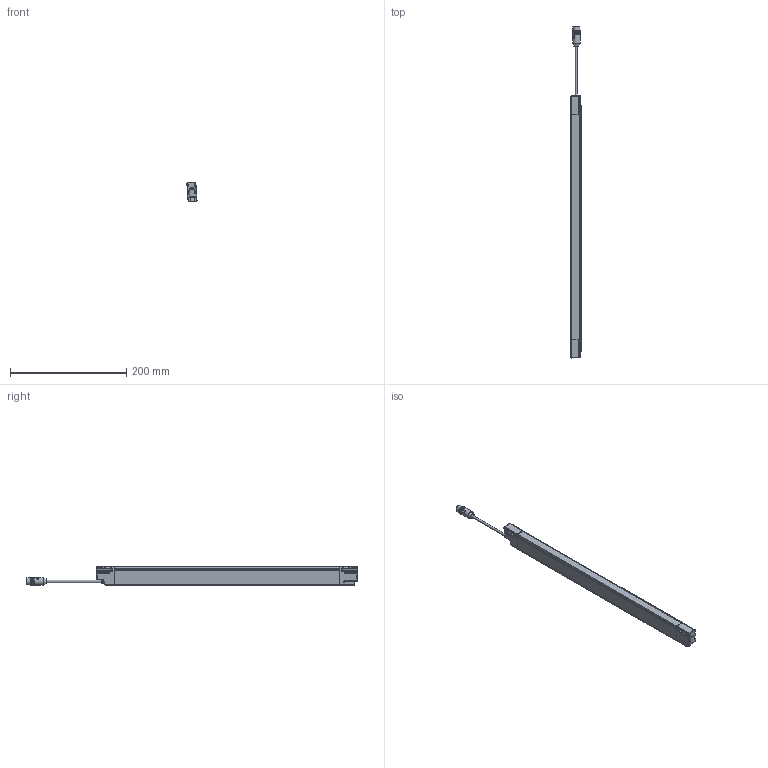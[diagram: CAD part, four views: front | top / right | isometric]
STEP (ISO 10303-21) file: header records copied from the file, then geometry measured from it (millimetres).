
FILE_DESCRIPTION(/* description */ (''),/* implementation_level */ '2;1');
FILE_NAME(/* name */ 'DSD-0630.stp',/* time_stamp */ '2015-02-23T17:08:57+01:00',/* author */ (''),/* organization */ (''),/* preprocessor_version */ 'ST-DEVELOPER v11',/* originating_system */ 'SIEMENS PLM Software NX 7.5',/* authorisation */ '');
FILE_SCHEMA (('AUTOMOTIVE_DESIGN { 1 0 10303 214 1 1 1 1 }'));
Length unit declared in the file: millimetre
Products named in the file (1): AP008109_00
Bounding box: 17.36 x 570.24 x 33.46 mm (x, y, z)
Surface area: 56616.8 mm2 (no closed solid volume)
Topology: 0 solids, 47 shells, 1106 faces, 3755 edges, 2573 vertices
Faces by surface type: cylinder 403, plane 329, bspline 154, torus 118, sphere 66, cone 36
Full cylindrical faces by diameter (mm): 1 x5, 1.2 x2, 2.6 x6, 4 x1, 8.3 x1, 9.4 x1, 10.4 x1, 12 x1, 13 x1, 13.5 x1, 14.5 x2
Entity records: 46799 total; most frequent: CARTESIAN_POINT 15015, DIRECTION 6811, ORIENTED_EDGE 5904, EDGE_CURVE 3634, AXIS2_PLACEMENT_3D 2573, VERTEX_POINT 2541, LINE 1665, VECTOR 1665
